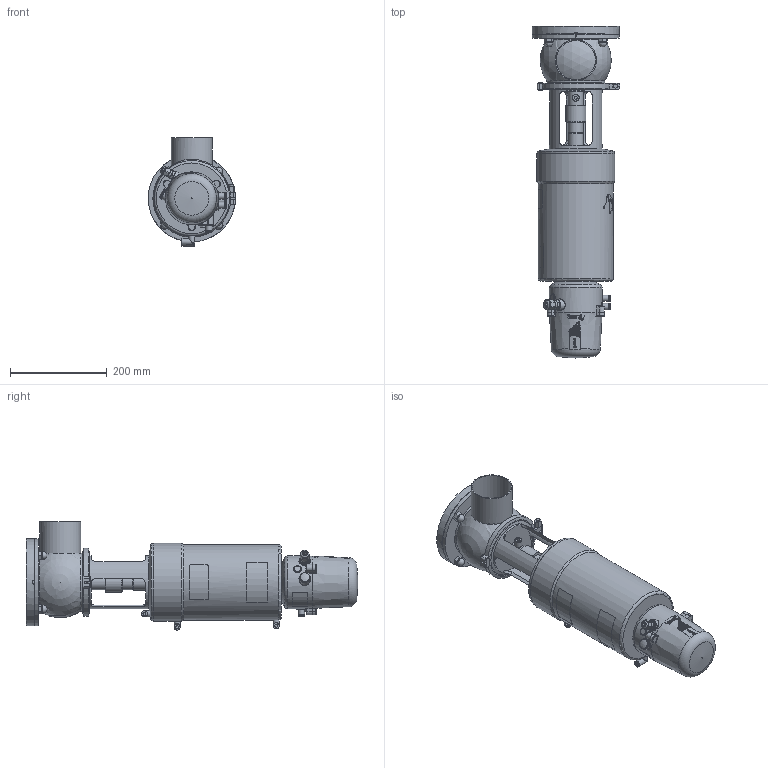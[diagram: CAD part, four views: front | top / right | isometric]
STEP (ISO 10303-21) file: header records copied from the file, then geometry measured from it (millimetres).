
FILE_DESCRIPTION (( 'STEP AP214' ), '1' );
FILE_NAME ('INNOVA T L W DIN 080 WITH FLANGE & C-TOP S_10.252.16.0007.STEP', '2024-08-20T12:54:48', ( '' ), ( '' ), 'SwSTEP 2.0', 'SolidWorks 2023', '' );
FILE_SCHEMA (( 'AUTOMOTIVE_DESIGN' ));
Length unit declared in the file: millimetre
Products named in the file (7): 10.248.15.0003_DIN 080 _ OD 3"; 10.240.15.0001_DN 080; 10.250.15.0002_Type T T2; 10.252.15.0001_DIN 080; 10.240.15.0006_DIN 080; INNOVA T L W DIN 080 WITH FLANGE & C-TOP S_10.252.16.0007; 10.426.15.0001_C-TOP S - 3 EV
Assembly tree (6 placements, depth 2):
  INNOVA T L W DIN 080 WITH FLANGE & C-TOP S_10.252.16.0007
    10.240.15.0006_DIN 080
    10.248.15.0003_DIN 080 _ OD 3"
    10.252.15.0001_DIN 080
    10.250.15.0002_Type T T2
    10.240.15.0001_DN 080
    10.426.15.0001_C-TOP S - 3 EV
Bounding box: 181 x 686.33 x 224 mm (x, y, z)
Volume: 9125030.6 mm3; surface area: 598096.2 mm2
Topology: 6 solids, 6 shells, 1196 faces, 2885 edges, 1920 vertices
Faces by surface type: plane 416, cylinder 379, cone 196, bspline 162, torus 33, sphere 10
Full cylindrical faces by diameter (mm): 0.371 x17, 0.512 x16, 0.658 x16, 0.795 x16, 0.94 x15, 1.098 x15, 1.241 x13, 1.382 x13, 1.523 x11, 1.669 x10, 2.201 x1, 4.2 x2, 5 x1, 5.5 x2, 6 x5, 6.15 x3, 8 x3, 10 x1, 10.5 x3, 11 x4, 12 x1, 12.5 x9, 13 x6, 13.5 x2, 14 x2, 16 x4, 17 x3, 20 x2, 22 x2, 30.5 x2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
Entity records: 61507 total; most frequent: CARTESIAN_POINT 29312, ORIENTED_EDGE 4868, DIRECTION 4001, EDGE_CURVE 2434, VERTEX_POINT 1732, EDGE_LOOP 1688, AXIS2_PLACEMENT_3D 1620, FACE_OUTER_BOUND 1427
